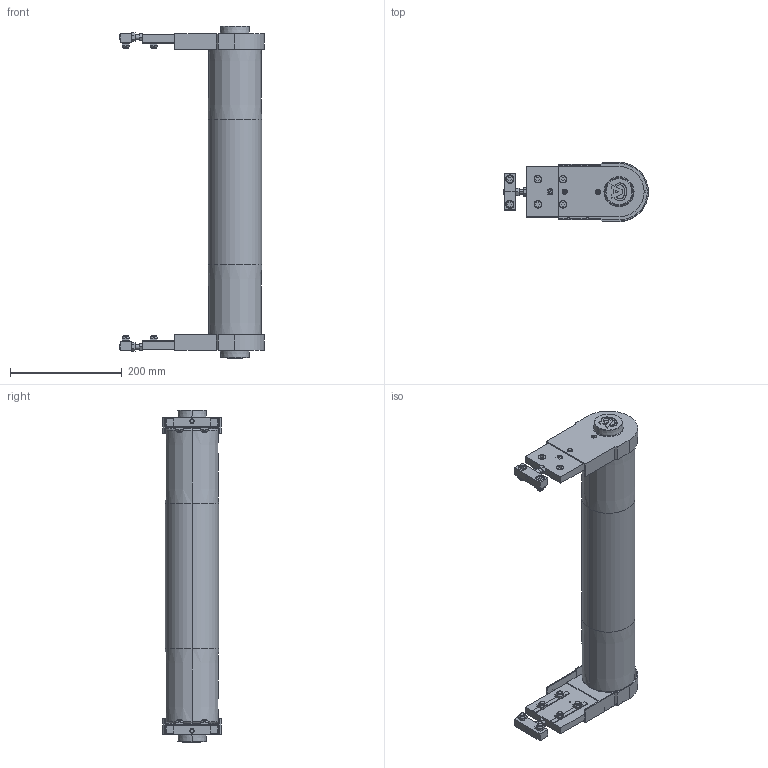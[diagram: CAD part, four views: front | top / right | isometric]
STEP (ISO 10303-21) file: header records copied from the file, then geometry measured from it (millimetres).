
FILE_DESCRIPTION (( 'STEP AP203' ), '1' );
FILE_NAME ('084.095.KIC.500.STEP', '2019-07-30T07:52:53', ( '' ), ( '' ), 'SwSTEP 2.0', 'SolidWorks 2018', '' );
FILE_SCHEMA (( 'CONFIG_CONTROL_DESIGN' ));
Length unit declared in the file: millimetre
Products named in the file (11): 084.803.005-1; 084.808.006_084.808.002; circlip for shafts normal_din_PreviewCfg; 084.301.000 VITI ALUSIC_084.301.003; 084.810.003; 084.095.KIC.500; 084.812.003; 084.803.003; 084.802.019_084.802.019; 084.302.000 DADI ALUSIC 13x13_084.302.004; 084.816.108_084.816.108
Assembly tree (39 placements, depth 2):
  084.095.KIC.500
    084.301.000 VITI ALUSIC_084.301.003  x12
    084.302.000 DADI ALUSIC 13x13_084.302.004  x12
    084.816.108_084.816.108
    084.812.003  x2
    084.808.006_084.808.002  x2
    084.810.003  x2
    084.802.019_084.802.019  x2
    084.803.003  x2
    084.803.005-1  x2
    circlip for shafts normal_din_PreviewCfg  x2
Bounding box: 258.5 x 105 x 593 mm (x, y, z)
Volume: 1774100.6 mm3; surface area: 834757.5 mm2
Topology: 45 solids, 47 shells, 1442 faces, 3742 edges, 2452 vertices
Faces by surface type: plane 871, cylinder 331, torus 100, cone 84, bspline 48, sphere 8
Entity records: 21076 total; most frequent: CARTESIAN_POINT 3819, DIRECTION 3211, ORIENTED_EDGE 3174, EDGE_CURVE 1587, AXIS2_PLACEMENT_3D 1081, VECTOR 1049, LINE 1049, VERTEX_POINT 1045
